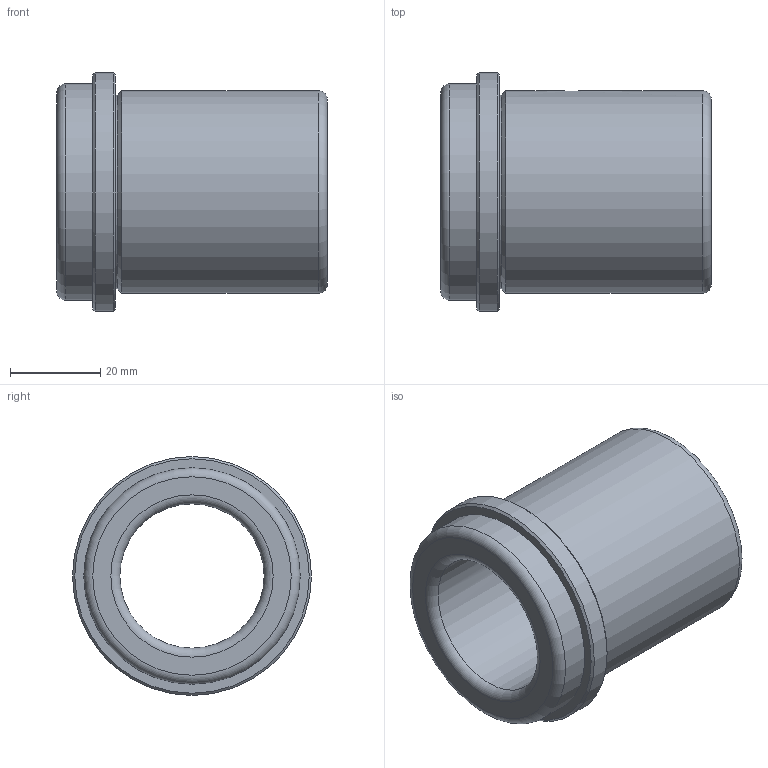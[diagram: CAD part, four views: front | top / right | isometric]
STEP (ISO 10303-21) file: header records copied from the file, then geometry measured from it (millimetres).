
FILE_DESCRIPTION( ( 'STEP AP214' ), '1' );
FILE_NAME( 'p:/temp/worker_112/temp/exporttempdir_5012_167_NeCh6/format_0/WZ - 4032 32 x 60.stp', '2020-12-03T19:42:25', ( 'License CC BY-ND 4.0' ), ( 'CADENAS' ), ' ', 'PARTsolutions', ' ' );
FILE_SCHEMA( ( 'AUTOMOTIVE_DESIGN { 1 0 10303 214 1 1 1 1 }' ) );
Length unit declared in the file: millimetre
Products named in the file (1): _WZ - 4032 32 x 60
Bounding box: 60 x 53 x 53 mm (x, y, z)
Volume: 51013.2 mm3; surface area: 17446.5 mm2
Topology: 1 solids, 1 shells, 19 faces, 34 edges, 20 vertices
Faces by surface type: cylinder 6, plane 5, torus 4, cone 4
Full cylindrical faces by diameter (mm): 5 x1, 32 x1, 43 x1, 45 x1, 48 x1, 53 x1
Entity records: 688 total; most frequent: CARTESIAN_POINT 184, DIRECTION 76, EDGE_LOOP 40, ORIENTED_EDGE 40, AXIS2_PLACEMENT_3D 38, FACE_OUTER_BOUND 29, EDGE_CURVE 20, VERTEX_POINT 20
